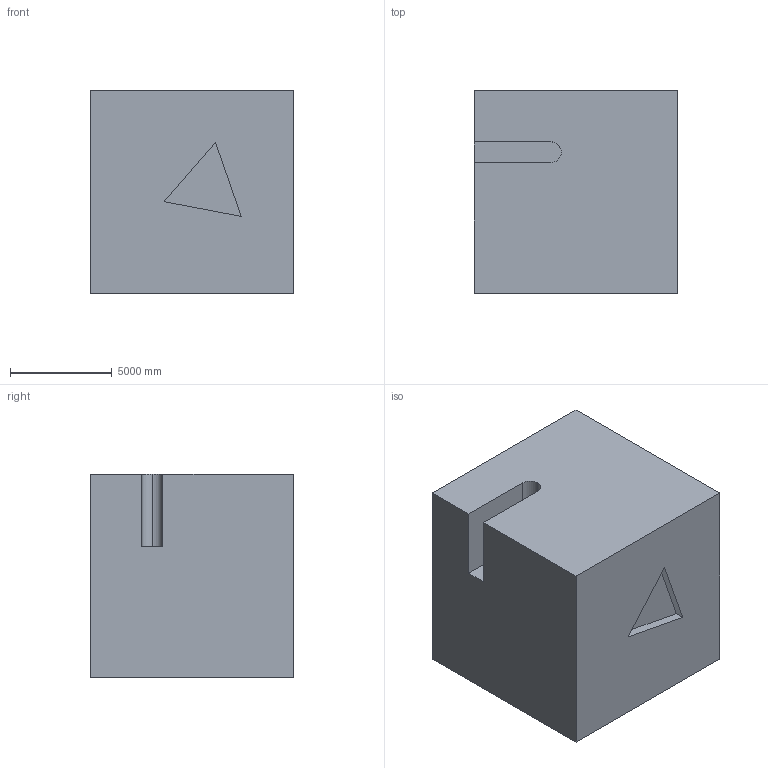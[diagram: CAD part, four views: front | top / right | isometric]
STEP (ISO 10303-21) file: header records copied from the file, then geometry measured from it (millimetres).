
FILE_DESCRIPTION (( 'STEP AP203' ), '1' );
FILE_NAME ('104.STEP', '2022-09-06T13:16:43', ( 'user' ), ( '' ), 'SwSTEP 2.0', 'SolidWorks 2021', '' );
FILE_SCHEMA (( 'CONFIG_CONTROL_DESIGN' ));
Length unit declared in the file: centimetre
Products named in the file (1): 104
Bounding box: 10000 x 10000 x 10000 mm (x, y, z)
Volume: 981873909089.3 mm3; surface area: 634114008.3 mm2
Topology: 1 solids, 1 shells, 15 faces, 36 edges, 24 vertices
Faces by surface type: plane 13, cylinder 2
Entity records: 511 total; most frequent: CARTESIAN_POINT 76, DIRECTION 72, ORIENTED_EDGE 72, EDGE_CURVE 36, LINE 32, VECTOR 32, VERTEX_POINT 24, AXIS2_PLACEMENT_3D 20
